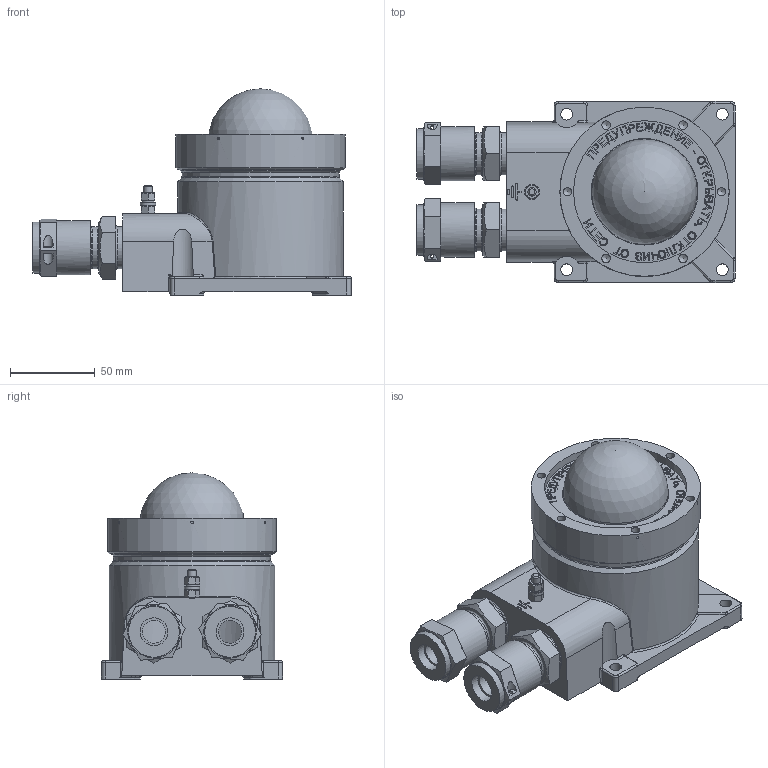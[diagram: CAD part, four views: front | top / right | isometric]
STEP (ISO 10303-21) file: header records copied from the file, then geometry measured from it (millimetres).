
FILE_DESCRIPTION(('STEP AP242'), '1');
FILE_NAME('908.3182.00.000蚜 离桧栝', '', ('UNSPECIFIED'), ('UNSPECIFIED'), 'ASCON STEP Converter 1.6', 'ASCON Math Kernel', '');
FILE_SCHEMA(('AP242_MANAGED_MODEL_BASED_3D_ENGINEERING_MIM_LF { 1 0 10303 442 1 1 4 }'));
Length unit declared in the file: millimetre
Bounding box: 188 x 107 x 121.9 mm (x, y, z)
Volume: 569510.7 mm3; surface area: 134229.6 mm2
Topology: 1 solids, 1 shells, 1587 faces, 4346 edges, 2856 vertices
Faces by surface type: cylinder 820, plane 665, torus 46, cone 45, bspline 6, sphere 5
Full cylindrical faces by diameter (mm): 1.5 x6, 2 x2, 2.5 x3, 4.5 x2, 5 x10, 5.3 x2, 5.5 x2, 6 x5, 7 x4, 9 x2, 13.6 x2, 14 x2, 15 x2, 16.5 x4, 23.752 x1, 24.8 x4, 25.376 x1, 27 x2, 30 x2, 32 x2, 38 x1, 42 x1, 60 x1, 62 x1, 63 x1, 84 x1, 85 x1, 87 x1, 92.8 x1, 95 x1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
Entity records: 67700 total; most frequent: CARTESIAN_POINT 13904, DIRECTION 8963, ORIENTED_EDGE 8384, EDGE_CURVE 4192, AXIS2_PLACEMENT_3D 3353, VERTEX_POINT 2847, LINE 2257, VECTOR 2257
